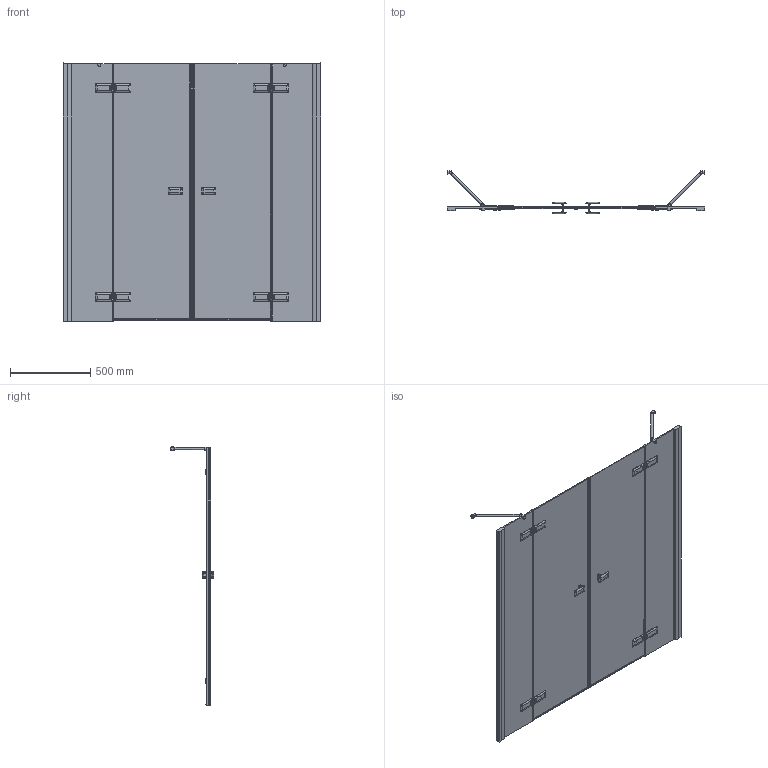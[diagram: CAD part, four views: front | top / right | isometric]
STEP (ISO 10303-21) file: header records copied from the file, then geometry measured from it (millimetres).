
FILE_DESCRIPTION(/* description */ (''),/* implementation_level */ '2;1');
FILE_NAME(/* name */ 'D:\88\TREND PART GV-864P\TREND PART GV-864P-3D.stp',/* time_stamp */ '2020-08-30T21:16:07+03:00',/* author */ ('User'),/* organization */ (''),/* preprocessor_version */ 'ST-DEVELOPER v15.2',/* originating_system */ 'Autodesk Inventor 2014',/* authorisation */ '');
FILE_SCHEMA (('AUTOMOTIVE_DESIGN { 1 0 10303 214 3 1 1 }'));
Products named in the file (1): TREND PART GV-864P-3D
Bounding box: 1600.27 x 268.64 x 1609.49 mm (x, y, z)
Volume: 20946244.3 mm3; surface area: 5682607.6 mm2
Topology: 19 solids, 19 shells, 2080 faces, 5623 edges, 3532 vertices
Faces by surface type: plane 1140, cylinder 557, bspline 272, cone 52, torus 42, sphere 17
Full cylindrical faces by diameter (mm): 4.134 x8, 5.2 x4, 6 x4, 9 x16, 11 x4, 13 x4, 15 x2, 16 x4, 20 x4, 26 x2
Entity records: 98532 total; most frequent: CARTESIAN_POINT 45785, ORIENTED_EDGE 10808, DIRECTION 10108, EDGE_CURVE 5404, AXIS2_PLACEMENT_3D 3493, VERTEX_POINT 3490, LINE 3122, VECTOR 3122
